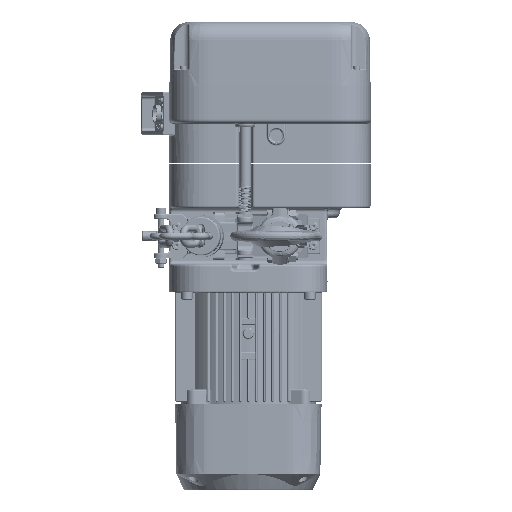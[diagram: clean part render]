
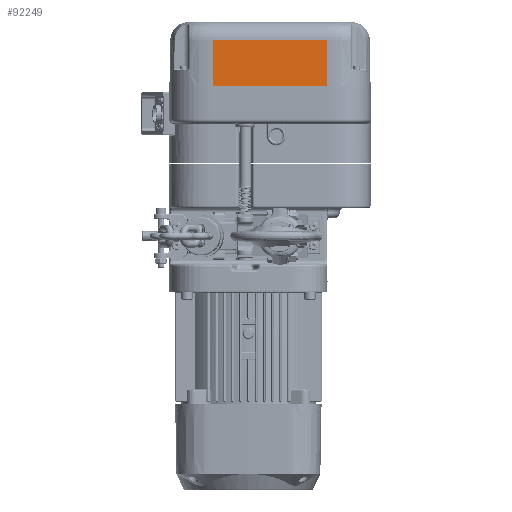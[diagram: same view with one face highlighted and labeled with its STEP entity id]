
A CAD part, front view. The second image highlights one B-rep face of the part: STEP entity #92249.
In plain terms, the highlighted planar face has unit normal (0, -1, 0.018).
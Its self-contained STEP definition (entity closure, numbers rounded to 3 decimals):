
#20488 = CARTESIAN_POINT ( 'NONE',  ( -89.882, -131.252, 71.506 ) ) ;
#24295 = DIRECTION ( 'NONE',  ( 0., -0.017, -1. ) ) ;
#26447 = ORIENTED_EDGE ( 'NONE', *, *, #113897, .T. ) ;
#30165 = EDGE_CURVE ( 'NONE', #134741, #103492, #111615, .T. ) ;
#32968 = ORIENTED_EDGE ( 'NONE', *, *, #92917, .F. ) ;
#43290 = CARTESIAN_POINT ( 'NONE',  ( 89.882, -131.252, 71.506 ) ) ;
#51816 = DIRECTION ( 'NONE',  ( 0., -1., 0.017 ) ) ;
#53707 = EDGE_CURVE ( 'NONE', #134741, #173165, #81913, .T. ) ;
#63855 = DIRECTION ( 'NONE',  ( 0., -0.017, -1. ) ) ;
#75015 = VECTOR ( 'NONE', #98020, 1000. ) ;
#76731 = EDGE_LOOP ( 'NONE', ( #142214, #174008, #26447, #32968 ) ) ;
#81196 = DIRECTION ( 'NONE',  ( 0., -0.017, -1. ) ) ;
#81314 = CARTESIAN_POINT ( 'NONE',  ( 0., -132.5, 0. ) ) ;
#81913 = LINE ( 'NONE', #189029, #188493 ) ;
#92249 = ADVANCED_FACE ( 'NONE', ( #158919 ), #145130, .T. ) ;
#92917 = EDGE_CURVE ( 'NONE', #103492, #146760, #115642, .T. ) ;
#94657 = VECTOR ( 'NONE', #81196, 1000. ) ;
#97875 = CARTESIAN_POINT ( 'NONE',  ( 89.882, -132.5, 0. ) ) ;
#98020 = DIRECTION ( 'NONE',  ( -1., 0., 0. ) ) ;
#103492 = VERTEX_POINT ( 'NONE', #177314 ) ;
#111615 = LINE ( 'NONE', #97875, #94657 ) ;
#113897 = EDGE_CURVE ( 'NONE', #173165, #146760, #154229, .T. ) ;
#115642 = LINE ( 'NONE', #141230, #75015 ) ;
#120259 = CARTESIAN_POINT ( 'NONE',  ( -89.882, -132.5, 0. ) ) ;
#125109 = AXIS2_PLACEMENT_3D ( 'NONE', #81314, #51816, #24295 ) ;
#134741 = VERTEX_POINT ( 'NONE', #43290 ) ;
#134854 = VECTOR ( 'NONE', #63855, 1000. ) ;
#141230 = CARTESIAN_POINT ( 'NONE',  ( 0., -132.5, 0. ) ) ;
#142214 = ORIENTED_EDGE ( 'NONE', *, *, #30165, .F. ) ;
#145130 = PLANE ( 'NONE',  #125109 ) ;
#146760 = VERTEX_POINT ( 'NONE', #120259 ) ;
#153241 = CARTESIAN_POINT ( 'NONE',  ( -89.882, -132.5, 0. ) ) ;
#154229 = LINE ( 'NONE', #153241, #134854 ) ;
#158919 = FACE_OUTER_BOUND ( 'NONE', #76731, .T. ) ;
#173165 = VERTEX_POINT ( 'NONE', #20488 ) ;
#174008 = ORIENTED_EDGE ( 'NONE', *, *, #53707, .T. ) ;
#177314 = CARTESIAN_POINT ( 'NONE',  ( 89.882, -132.5, 0. ) ) ;
#186126 = DIRECTION ( 'NONE',  ( -1., 0., 0. ) ) ;
#188493 = VECTOR ( 'NONE', #186126, 1000. ) ;
#189029 = CARTESIAN_POINT ( 'NONE',  ( 0., -131.252, 71.506 ) ) ;
